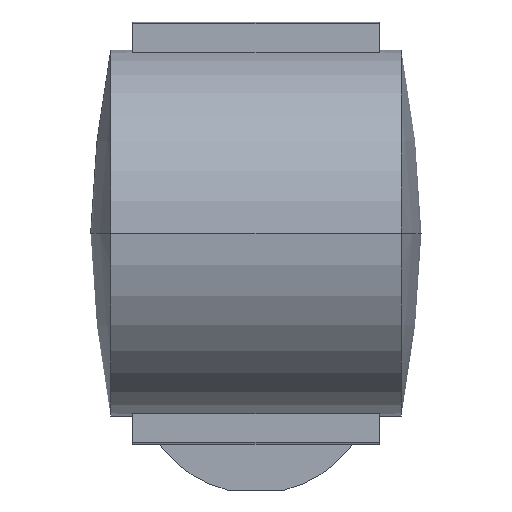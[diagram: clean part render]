
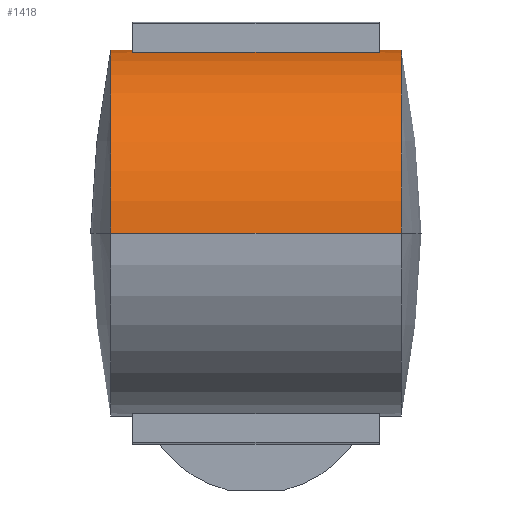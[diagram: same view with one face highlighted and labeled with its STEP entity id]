
A CAD part, front view. The second image highlights one B-rep face of the part: STEP entity #1418.
In plain terms, the highlighted cylindrical face has radius 26 mm (diameter 52 mm), a partial arc.
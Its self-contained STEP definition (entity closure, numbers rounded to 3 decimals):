
#3 = CYLINDRICAL_SURFACE ( 'NONE', #1042, 26. ) ;
#29 = VERTEX_POINT ( 'NONE', #350 ) ;
#33 = VERTEX_POINT ( 'NONE', #189 ) ;
#42 = DIRECTION ( 'NONE',  ( -1., 0., 0. ) ) ;
#51 = CARTESIAN_POINT ( 'NONE',  ( 20.649, -76., 20. ) ) ;
#84 = DIRECTION ( 'NONE',  ( -1., 0., 0. ) ) ;
#93 = DIRECTION ( 'NONE',  ( -1., 0., 0. ) ) ;
#115 = DIRECTION ( 'NONE',  ( 0., -1., 0. ) ) ;
#125 = ORIENTED_EDGE ( 'NONE', *, *, #1401, .F. ) ;
#176 = VECTOR ( 'NONE', #419, 1000. ) ;
#178 = LINE ( 'NONE', #1002, #176 ) ;
#189 = CARTESIAN_POINT ( 'NONE',  ( -20.649, -76., 20. ) ) ;
#193 = AXIS2_PLACEMENT_3D ( 'NONE', #958, #42, #1414 ) ;
#207 = EDGE_CURVE ( 'NONE', #434, #561, #710, .T. ) ;
#208 = FACE_OUTER_BOUND ( 'NONE', #1322, .T. ) ;
#211 = ORIENTED_EDGE ( 'NONE', *, *, #1105, .F. ) ;
#234 = AXIS2_PLACEMENT_3D ( 'NONE', #1255, #1039, #237 ) ;
#237 = DIRECTION ( 'NONE',  ( 0., 0., -1. ) ) ;
#244 = DIRECTION ( 'NONE',  ( -1., 0., 0. ) ) ;
#303 = CARTESIAN_POINT ( 'NONE',  ( -17.5, -24., 20. ) ) ;
#308 = CARTESIAN_POINT ( 'NONE',  ( -20.649, -50., 20. ) ) ;
#322 = EDGE_CURVE ( 'NONE', #683, #434, #408, .T. ) ;
#332 = ORIENTED_EDGE ( 'NONE', *, *, #943, .F. ) ;
#350 = CARTESIAN_POINT ( 'NONE',  ( 20.649, -24., 20. ) ) ;
#366 = CARTESIAN_POINT ( 'NONE',  ( -17.5, -54., 45.69 ) ) ;
#405 = LINE ( 'NONE', #890, #888 ) ;
#408 = LINE ( 'NONE', #769, #563 ) ;
#416 = DIRECTION ( 'NONE',  ( 0., 0., -1. ) ) ;
#419 = DIRECTION ( 'NONE',  ( -1., 0., 0. ) ) ;
#434 = VERTEX_POINT ( 'NONE', #366 ) ;
#436 = EDGE_CURVE ( 'NONE', #561, #1397, #853, .T. ) ;
#469 = CARTESIAN_POINT ( 'NONE',  ( -23.5, -50., 20. ) ) ;
#475 = DIRECTION ( 'NONE',  ( -1., 0., 0. ) ) ;
#489 = CARTESIAN_POINT ( 'NONE',  ( -23.5, -24., 20. ) ) ;
#499 = EDGE_CURVE ( 'NONE', #612, #29, #856, .T. ) ;
#561 = VERTEX_POINT ( 'NONE', #303 ) ;
#563 = VECTOR ( 'NONE', #572, 1000. ) ;
#564 = CARTESIAN_POINT ( 'NONE',  ( 17.5, -54., 45.69 ) ) ;
#572 = DIRECTION ( 'NONE',  ( -1., 0., 0. ) ) ;
#578 = ORIENTED_EDGE ( 'NONE', *, *, #436, .T. ) ;
#591 = DIRECTION ( 'NONE',  ( 0., -1., 0. ) ) ;
#612 = VERTEX_POINT ( 'NONE', #51 ) ;
#615 = ORIENTED_EDGE ( 'NONE', *, *, #499, .T. ) ;
#641 = ORIENTED_EDGE ( 'NONE', *, *, #322, .T. ) ;
#649 = CARTESIAN_POINT ( 'NONE',  ( -17.5, -50., 20. ) ) ;
#651 = CIRCLE ( 'NONE', #234, 26. ) ;
#683 = VERTEX_POINT ( 'NONE', #564 ) ;
#710 = CIRCLE ( 'NONE', #1050, 26. ) ;
#748 = ORIENTED_EDGE ( 'NONE', *, *, #914, .T. ) ;
#769 = CARTESIAN_POINT ( 'NONE',  ( -23.5, -54., 45.69 ) ) ;
#783 = ORIENTED_EDGE ( 'NONE', *, *, #207, .T. ) ;
#833 = VERTEX_POINT ( 'NONE', #1171 ) ;
#853 = LINE ( 'NONE', #489, #1162 ) ;
#856 = CIRCLE ( 'NONE', #193, 26. ) ;
#888 = VECTOR ( 'NONE', #1351, 1000. ) ;
#890 = CARTESIAN_POINT ( 'NONE',  ( -23.5, -24., 20. ) ) ;
#914 = EDGE_CURVE ( 'NONE', #29, #833, #405, .T. ) ;
#943 = EDGE_CURVE ( 'NONE', #612, #33, #178, .T. ) ;
#958 = CARTESIAN_POINT ( 'NONE',  ( 20.649, -50., 20. ) ) ;
#1002 = CARTESIAN_POINT ( 'NONE',  ( -23.5, -76., 20. ) ) ;
#1018 = AXIS2_PLACEMENT_3D ( 'NONE', #308, #93, #115 ) ;
#1039 = DIRECTION ( 'NONE',  ( -1., 0., 0. ) ) ;
#1042 = AXIS2_PLACEMENT_3D ( 'NONE', #469, #475, #591 ) ;
#1048 = CARTESIAN_POINT ( 'NONE',  ( -20.649, -24., 20. ) ) ;
#1050 = AXIS2_PLACEMENT_3D ( 'NONE', #649, #84, #416 ) ;
#1105 = EDGE_CURVE ( 'NONE', #33, #1397, #1360, .T. ) ;
#1162 = VECTOR ( 'NONE', #244, 1000. ) ;
#1171 = CARTESIAN_POINT ( 'NONE',  ( 17.5, -24., 20. ) ) ;
#1255 = CARTESIAN_POINT ( 'NONE',  ( 17.5, -50., 20. ) ) ;
#1322 = EDGE_LOOP ( 'NONE', ( #615, #748, #125, #641, #783, #578, #211, #332 ) ) ;
#1351 = DIRECTION ( 'NONE',  ( -1., 0., 0. ) ) ;
#1360 = CIRCLE ( 'NONE', #1018, 26. ) ;
#1397 = VERTEX_POINT ( 'NONE', #1048 ) ;
#1401 = EDGE_CURVE ( 'NONE', #683, #833, #651, .T. ) ;
#1414 = DIRECTION ( 'NONE',  ( 0., -1., 0. ) ) ;
#1418 = ADVANCED_FACE ( 'NONE', ( #208 ), #3, .T. ) ;
